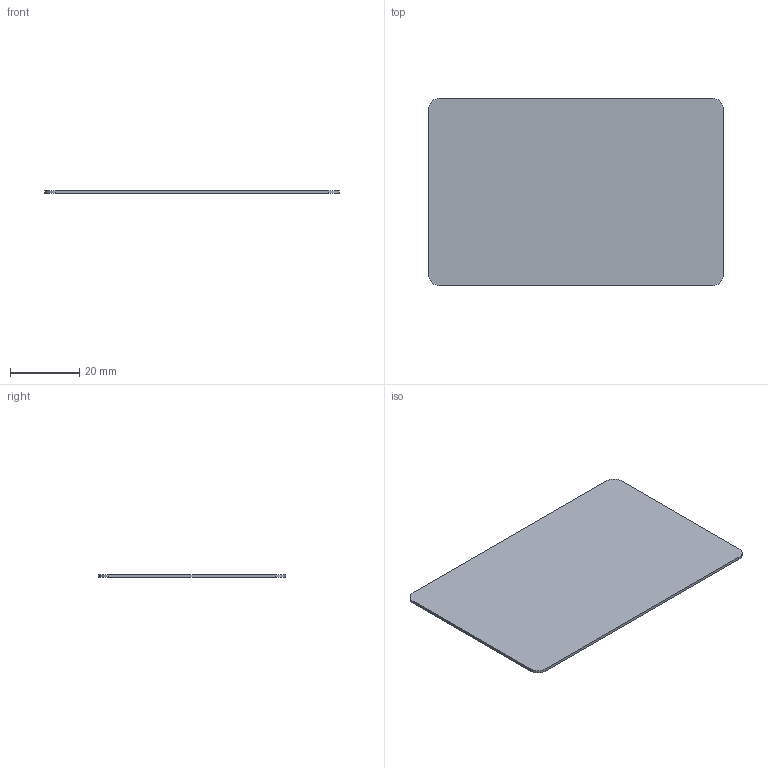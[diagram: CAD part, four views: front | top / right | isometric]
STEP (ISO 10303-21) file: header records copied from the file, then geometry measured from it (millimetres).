
FILE_DESCRIPTION(('Open CASCADE Model'),'2;1');
FILE_NAME('Open CASCADE Shape Model','2026-10-21T17:23:48',('Author'),( 'Open CASCADE'),'Open CASCADE STEP processor 7.9','Open CASCADE 7.9' ,'Unknown');
FILE_SCHEMA(('AUTOMOTIVE_DESIGN { 1 0 10303 214 1 1 1 1 }'));
Length unit declared in the file: millimetre
Products named in the file (1): Open CASCADE STEP translator 7.9 4
Bounding box: 85 x 54 x 0.8 mm (x, y, z)
Volume: 3665.8 mm3; surface area: 9382.8 mm2
Topology: 1 solids, 1 shells, 10 faces, 24 edges, 16 vertices
Faces by surface type: plane 6, cylinder 4
Entity records: 630 total; most frequent: CARTESIAN_POINT 123, DIRECTION 98, LINE 56, VECTOR 56, ORIENTED_EDGE 48, PCURVE 48, DEFINITIONAL_REPRESENTATION 48, EDGE_CURVE 24
